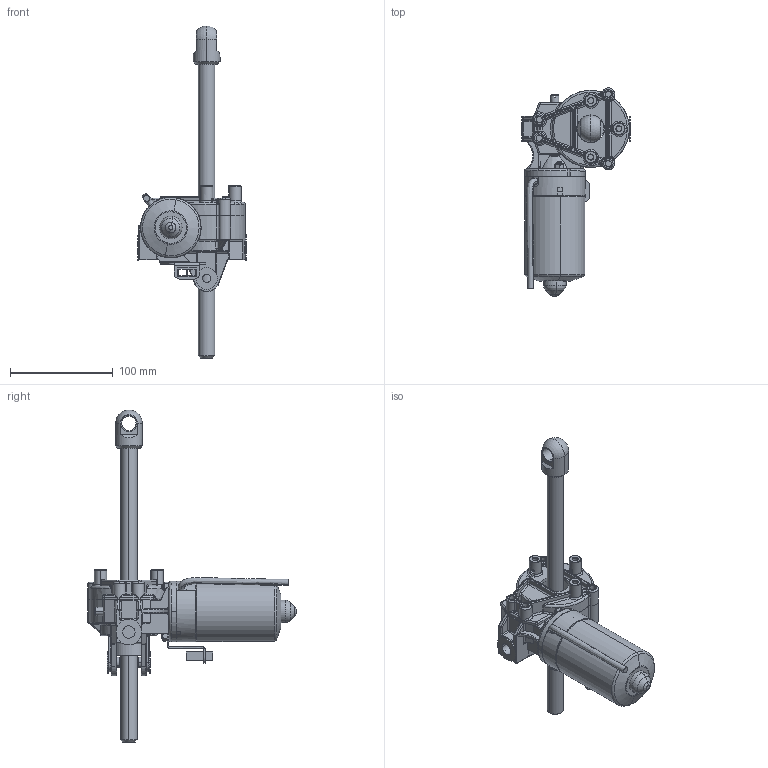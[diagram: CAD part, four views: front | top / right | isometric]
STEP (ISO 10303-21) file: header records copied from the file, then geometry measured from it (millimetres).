
FILE_DESCRIPTION (( 'STEP AP203' ), '1' );
FILE_NAME ('200KS.STEP', '2011-11-17T13:12:17', ( 'PC' ), ( 'PC' ), 'SwSTEP 2.0', 'SolidWorks 2007', '' );
FILE_SCHEMA (( 'CONFIG_CONTROL_DESIGN' ));
Length unit declared in the file: millimetre
Products named in the file (16): motor_drhm_59er_Standard; Kabel f黵 mit Hallgeber_Standard; Stecker mit Halterung_ohne Kabel; Buchse_Katalog gross; 200KS; Getriebegehäuse 200er_Standard; Adapter 200er_niedriges Niveau; DIN 912 M5 x 8 --- 8N_DIN 912 M5 x 8 --- 8N; Anlaufschraube_Standard; ISO 4018 - M5 x 25-NN_ISO 4018 - M5 x 25-NN; Getriebedeckel 200er_200 K; prevailing torque nut style 2_DIN_DIN EN ISO 7042 - M5 - N; Spindel_Katalog; Gelenkauge_Standard; Gleitlager_Standard; Buchse_Katalog
Assembly tree (22 placements, depth 2):
  200KS
    Buchse_Katalog gross  x2
    Kabel f黵 mit Hallgeber_Standard
    motor_drhm_59er_Standard
    Buchse_Katalog  x2
    DIN 912 M5 x 8 --- 8N_DIN 912 M5 x 8 --- 8N  x4
    Anlaufschraube_Standard
    Stecker mit Halterung_ohne Kabel
    ISO 4018 - M5 x 25-NN_ISO 4018 - M5 x 25-NN  x2
    prevailing torque nut style 2_DIN_DIN EN ISO 7042 - M5 - N  x2
    Getriebedeckel 200er_200 K
    Getriebegehäuse 200er_Standard
    Adapter 200er_niedriges Niveau
    Gelenkauge_Standard
    Gleitlager_Standard
    Spindel_Katalog
Bounding box: 105.5 x 202.56 x 323 mm (x, y, z)
Volume: 489848.8 mm3; surface area: 149369.7 mm2
Topology: 22 solids, 22 shells, 2027 faces, 4823 edges, 2781 vertices
Faces by surface type: cylinder 781, plane 440, torus 394, bspline 176, sphere 143, cone 93
Entity records: 62288 total; most frequent: CARTESIAN_POINT 17674, DIRECTION 9605, ORIENTED_EDGE 8756, EDGE_CURVE 4378, AXIS2_PLACEMENT_3D 4041, VERTEX_POINT 2553, CIRCLE 2307, EDGE_LOOP 1979
